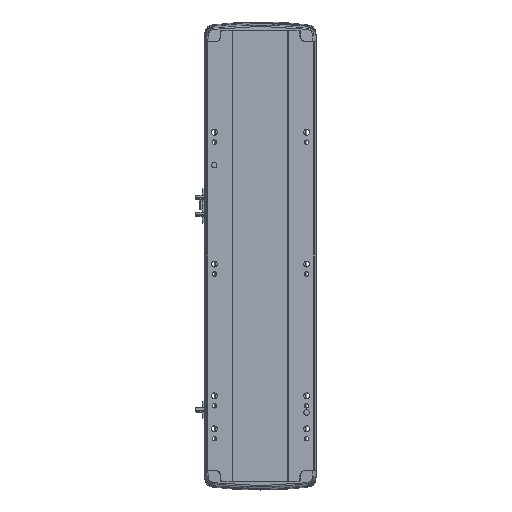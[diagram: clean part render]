
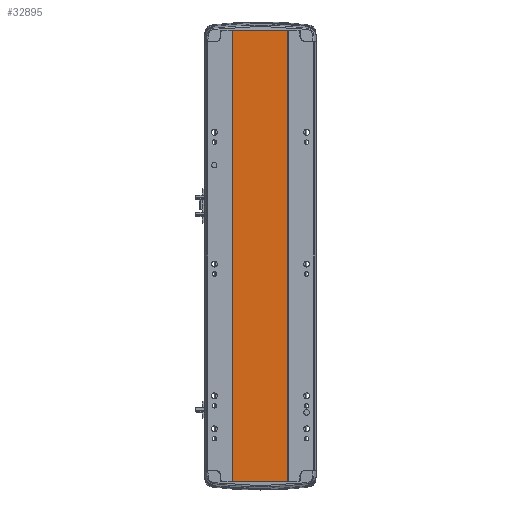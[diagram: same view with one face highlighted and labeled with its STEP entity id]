
A CAD part, front view. The second image highlights one B-rep face of the part: STEP entity #32895.
In plain terms, the highlighted planar face has unit normal (0, -1, 0).
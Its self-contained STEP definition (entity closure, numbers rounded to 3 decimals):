
#91 = VERTEX_POINT ( 'NONE', #4958 ) ;
#270 = VECTOR ( 'NONE', #29744, 1000. ) ;
#1640 = ORIENTED_EDGE ( 'NONE', *, *, #22622, .T. ) ;
#1793 = EDGE_CURVE ( 'NONE', #36843, #91, #2827, .T. ) ;
#2827 = LINE ( 'NONE', #23749, #20147 ) ;
#3205 = EDGE_LOOP ( 'NONE', ( #1640, #10300, #26463, #39970 ) ) ;
#4958 = CARTESIAN_POINT ( 'NONE',  ( 41.793, 0.998, 0. ) ) ;
#5636 = CARTESIAN_POINT ( 'NONE',  ( 41.793, 0.998, 684.5 ) ) ;
#5908 = LINE ( 'NONE', #11857, #31952 ) ;
#6122 = CARTESIAN_POINT ( 'NONE',  ( 0., 0.999, 684.5 ) ) ;
#6660 = CARTESIAN_POINT ( 'NONE',  ( -41.791, 1., 684.5 ) ) ;
#7255 = FACE_OUTER_BOUND ( 'NONE', #3205, .T. ) ;
#8898 = CARTESIAN_POINT ( 'NONE',  ( -41.791, 1., 0. ) ) ;
#10300 = ORIENTED_EDGE ( 'NONE', *, *, #1793, .F. ) ;
#10648 = PLANE ( 'NONE',  #12536 ) ;
#11250 = EDGE_CURVE ( 'NONE', #34079, #36843, #12730, .T. ) ;
#11857 = CARTESIAN_POINT ( 'NONE',  ( -41.791, 1., 684.5 ) ) ;
#12291 = LINE ( 'NONE', #29343, #270 ) ;
#12536 = AXIS2_PLACEMENT_3D ( 'NONE', #32233, #28863, #25478 ) ;
#12730 = LINE ( 'NONE', #6122, #18487 ) ;
#16115 = VERTEX_POINT ( 'NONE', #8898 ) ;
#18487 = VECTOR ( 'NONE', #37266, 1000. ) ;
#20147 = VECTOR ( 'NONE', #38781, 1000. ) ;
#22622 = EDGE_CURVE ( 'NONE', #16115, #91, #12291, .T. ) ;
#23749 = CARTESIAN_POINT ( 'NONE',  ( 41.793, 0.998, 684.5 ) ) ;
#24645 = EDGE_CURVE ( 'NONE', #34079, #16115, #5908, .T. ) ;
#25478 = DIRECTION ( 'NONE',  ( -1., 0., 0. ) ) ;
#26463 = ORIENTED_EDGE ( 'NONE', *, *, #11250, .F. ) ;
#26838 = DIRECTION ( 'NONE',  ( 0., 0., -1. ) ) ;
#28863 = DIRECTION ( 'NONE',  ( 0., 1., 0. ) ) ;
#29343 = CARTESIAN_POINT ( 'NONE',  ( 0., 0.999, 0. ) ) ;
#29744 = DIRECTION ( 'NONE',  ( 1., 0., 0. ) ) ;
#31952 = VECTOR ( 'NONE', #26838, 1000. ) ;
#32233 = CARTESIAN_POINT ( 'NONE',  ( 0., 0.999, 684.5 ) ) ;
#32895 = ADVANCED_FACE ( 'NONE', ( #7255 ), #10648, .F. ) ;
#34079 = VERTEX_POINT ( 'NONE', #6660 ) ;
#36843 = VERTEX_POINT ( 'NONE', #5636 ) ;
#37266 = DIRECTION ( 'NONE',  ( 1., 0., 0. ) ) ;
#38781 = DIRECTION ( 'NONE',  ( 0., 0., -1. ) ) ;
#39970 = ORIENTED_EDGE ( 'NONE', *, *, #24645, .T. ) ;
